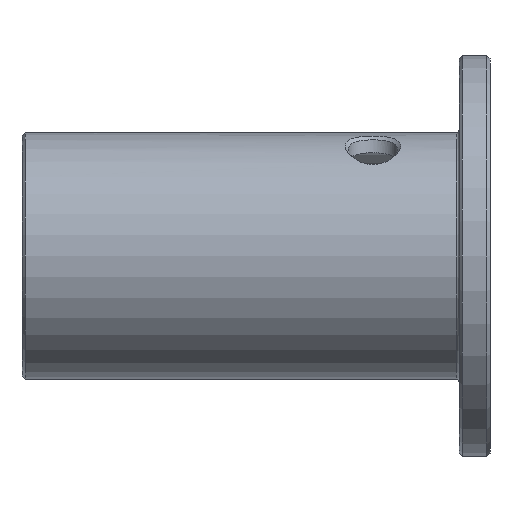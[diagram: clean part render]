
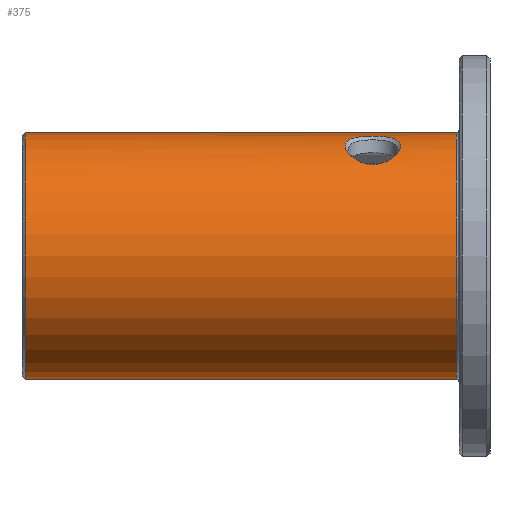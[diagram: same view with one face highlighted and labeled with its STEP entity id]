
A CAD part, left-side view. The second image highlights one B-rep face of the part: STEP entity #375.
In plain terms, the highlighted cylindrical face has radius 20 mm (diameter 40 mm), a full revolution.
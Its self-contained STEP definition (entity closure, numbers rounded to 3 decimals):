
#34=CIRCLE('',#407,20.);
#35=CIRCLE('',#408,20.);
#67=FACE_BOUND('',#149,.T.);
#68=FACE_BOUND('',#150,.T.);
#106=CYLINDRICAL_SURFACE('',#406,20.);
#117=FACE_OUTER_BOUND('',#148,.T.);
#148=EDGE_LOOP('',(#304));
#149=EDGE_LOOP('',(#305));
#150=EDGE_LOOP('',(#306,#307,#308));
#215=B_SPLINE_CURVE_WITH_KNOTS('',3,(#706,#707,#708,#709,#710,#711,#712,
#713),.UNSPECIFIED.,.F.,.F.,(4,3,1,4),(-2.588,-2.588,
-2.402,-2.225),.UNSPECIFIED.);
#216=B_SPLINE_CURVE_WITH_KNOTS('',3,(#715,#716,#717,#718,#719,#720,#721,
#722,#723,#724,#725,#726,#727,#728,#729,#730,#731,#732,#733,#734,#735,#736,
#737,#738,#739,#740,#741,#742,#743,#744,#745,#746,#747,#748,#749,#750,#751,
#752,#753,#754,#755,#756,#757,#758,#759,#760,#761,#762,#763,#764,#765,#766),
 .UNSPECIFIED.,.F.,.F.,(4,3,3,3,3,3,3,3,3,3,3,3,3,3,3,3,3,4),(-2.225,
-2.216,-2.031,-1.845,-1.752,
-1.66,-1.567,-1.474,-1.35,
-1.227,-1.103,-1.01,-0.979,
-0.793,-0.732,-0.546,-0.36,
-0.353),.UNSPECIFIED.);
#217=B_SPLINE_CURVE_WITH_KNOTS('',3,(#767,#768,#769,#770,#771),
 .UNSPECIFIED.,.F.,.F.,(4,1,4),(-2.951,-2.773,-2.588),
 .UNSPECIFIED.);
#221=VERTEX_POINT('',#680);
#223=VERTEX_POINT('',#705);
#224=VERTEX_POINT('',#714);
#226=VERTEX_POINT('',#813);
#227=VERTEX_POINT('',#815);
#260=EDGE_CURVE('',#221,#223,#215,.T.);
#261=EDGE_CURVE('',#223,#224,#216,.T.);
#262=EDGE_CURVE('',#224,#221,#217,.T.);
#264=EDGE_CURVE('',#226,#226,#34,.T.);
#265=EDGE_CURVE('',#227,#227,#35,.T.);
#304=ORIENTED_EDGE('',*,*,#264,.F.);
#305=ORIENTED_EDGE('',*,*,#265,.F.);
#306=ORIENTED_EDGE('',*,*,#262,.F.);
#307=ORIENTED_EDGE('',*,*,#261,.F.);
#308=ORIENTED_EDGE('',*,*,#260,.F.);
#375=ADVANCED_FACE('',(#117,#67,#68),#106,.T.);
#406=AXIS2_PLACEMENT_3D('',#812,#471,#472);
#407=AXIS2_PLACEMENT_3D('',#814,#473,#474);
#408=AXIS2_PLACEMENT_3D('',#816,#475,#476);
#471=DIRECTION('center_axis',(0.,1.,0.));
#472=DIRECTION('ref_axis',(0.,0.,1.));
#473=DIRECTION('center_axis',(0.,-1.,0.));
#474=DIRECTION('ref_axis',(0.,0.,-1.));
#475=DIRECTION('center_axis',(0.,1.,0.));
#476=DIRECTION('ref_axis',(0.,0.,-1.));
#680=CARTESIAN_POINT('',(-4.514,13.998,19.484));
#705=CARTESIAN_POINT('',(-6.245,17.546,19.));
#706=CARTESIAN_POINT('Ctrl Pts',(-4.514,13.998,19.482));
#707=CARTESIAN_POINT('Ctrl Pts',(-4.514,13.998,19.482));
#708=CARTESIAN_POINT('Ctrl Pts',(-4.514,13.998,19.482));
#709=CARTESIAN_POINT('Ctrl Pts',(-4.514,13.998,19.482));
#710=CARTESIAN_POINT('Ctrl Pts',(-4.513,14.701,19.482));
#711=CARTESIAN_POINT('Ctrl Pts',(-4.859,16.076,19.402));
#712=CARTESIAN_POINT('Ctrl Pts',(-5.723,17.143,19.172));
#713=CARTESIAN_POINT('Ctrl Pts',(-6.244,17.547,18.999));
#714=CARTESIAN_POINT('',(-6.245,10.454,19.));
#715=CARTESIAN_POINT('Ctrl Pts',(-6.244,17.55,19.002));
#716=CARTESIAN_POINT('Ctrl Pts',(-6.269,17.569,18.993));
#717=CARTESIAN_POINT('Ctrl Pts',(-6.295,17.588,18.985));
#718=CARTESIAN_POINT('Ctrl Pts',(-6.32,17.607,18.976));
#719=CARTESIAN_POINT('Ctrl Pts',(-6.878,18.019,18.789));
#720=CARTESIAN_POINT('Ctrl Pts',(-7.544,18.3,18.535));
#721=CARTESIAN_POINT('Ctrl Pts',(-8.186,18.425,18.248));
#722=CARTESIAN_POINT('Ctrl Pts',(-8.828,18.55,17.961));
#723=CARTESIAN_POINT('Ctrl Pts',(-9.446,18.52,17.642));
#724=CARTESIAN_POINT('Ctrl Pts',(-10.046,18.37,17.293));
#725=CARTESIAN_POINT('Ctrl Pts',(-10.346,18.296,17.119));
#726=CARTESIAN_POINT('Ctrl Pts',(-10.642,18.191,16.937));
#727=CARTESIAN_POINT('Ctrl Pts',(-10.922,18.054,16.754));
#728=CARTESIAN_POINT('Ctrl Pts',(-11.202,17.916,16.572));
#729=CARTESIAN_POINT('Ctrl Pts',(-11.466,17.745,16.389));
#730=CARTESIAN_POINT('Ctrl Pts',(-11.705,17.555,16.217));
#731=CARTESIAN_POINT('Ctrl Pts',(-11.943,17.364,16.045));
#732=CARTESIAN_POINT('Ctrl Pts',(-12.157,17.154,15.883));
#733=CARTESIAN_POINT('Ctrl Pts',(-12.356,16.911,15.727));
#734=CARTESIAN_POINT('Ctrl Pts',(-12.555,16.667,15.57));
#735=CARTESIAN_POINT('Ctrl Pts',(-12.739,16.39,15.42));
#736=CARTESIAN_POINT('Ctrl Pts',(-12.892,16.081,15.29));
#737=CARTESIAN_POINT('Ctrl Pts',(-13.097,15.669,15.118));
#738=CARTESIAN_POINT('Ctrl Pts',(-13.247,15.201,14.984));
#739=CARTESIAN_POINT('Ctrl Pts',(-13.321,14.721,14.918));
#740=CARTESIAN_POINT('Ctrl Pts',(-13.395,14.241,14.852));
#741=CARTESIAN_POINT('Ctrl Pts',(-13.394,13.749,14.853));
#742=CARTESIAN_POINT('Ctrl Pts',(-13.32,13.272,14.919));
#743=CARTESIAN_POINT('Ctrl Pts',(-13.245,12.795,14.985));
#744=CARTESIAN_POINT('Ctrl Pts',(-13.098,12.333,15.117));
#745=CARTESIAN_POINT('Ctrl Pts',(-12.893,11.921,15.289));
#746=CARTESIAN_POINT('Ctrl Pts',(-12.74,11.613,15.419));
#747=CARTESIAN_POINT('Ctrl Pts',(-12.554,11.332,15.571));
#748=CARTESIAN_POINT('Ctrl Pts',(-12.356,11.089,15.727));
#749=CARTESIAN_POINT('Ctrl Pts',(-12.29,11.008,15.779));
#750=CARTESIAN_POINT('Ctrl Pts',(-12.222,10.931,15.831));
#751=CARTESIAN_POINT('Ctrl Pts',(-12.152,10.857,15.885));
#752=CARTESIAN_POINT('Ctrl Pts',(-11.731,10.41,16.207));
#753=CARTESIAN_POINT('Ctrl Pts',(-11.218,10.053,16.573));
#754=CARTESIAN_POINT('Ctrl Pts',(-10.638,9.82,16.936));
#755=CARTESIAN_POINT('Ctrl Pts',(-10.445,9.742,17.057));
#756=CARTESIAN_POINT('Ctrl Pts',(-10.244,9.678,17.178));
#757=CARTESIAN_POINT('Ctrl Pts',(-10.043,9.628,17.295));
#758=CARTESIAN_POINT('Ctrl Pts',(-9.438,9.478,17.647));
#759=CARTESIAN_POINT('Ctrl Pts',(-8.823,9.449,17.964));
#760=CARTESIAN_POINT('Ctrl Pts',(-8.181,9.575,18.251));
#761=CARTESIAN_POINT('Ctrl Pts',(-7.539,9.702,18.537));
#762=CARTESIAN_POINT('Ctrl Pts',(-6.871,9.985,18.792));
#763=CARTESIAN_POINT('Ctrl Pts',(-6.314,10.396,18.978));
#764=CARTESIAN_POINT('Ctrl Pts',(-6.291,10.414,18.986));
#765=CARTESIAN_POINT('Ctrl Pts',(-6.267,10.432,18.994));
#766=CARTESIAN_POINT('Ctrl Pts',(-6.244,10.45,19.002));
#767=CARTESIAN_POINT('Ctrl Pts',(-6.244,10.452,19.));
#768=CARTESIAN_POINT('Ctrl Pts',(-5.72,10.857,19.173));
#769=CARTESIAN_POINT('Ctrl Pts',(-4.861,11.923,19.402));
#770=CARTESIAN_POINT('Ctrl Pts',(-4.514,13.296,19.483));
#771=CARTESIAN_POINT('Ctrl Pts',(-4.513,13.998,19.483));
#812=CARTESIAN_POINT('Origin',(0.,35.5,0.));
#813=CARTESIAN_POINT('',(0.,0.5,20.));
#814=CARTESIAN_POINT('Origin',(0.,0.5,0.));
#815=CARTESIAN_POINT('',(0.,70.5,20.));
#816=CARTESIAN_POINT('Origin',(0.,70.5,0.));
